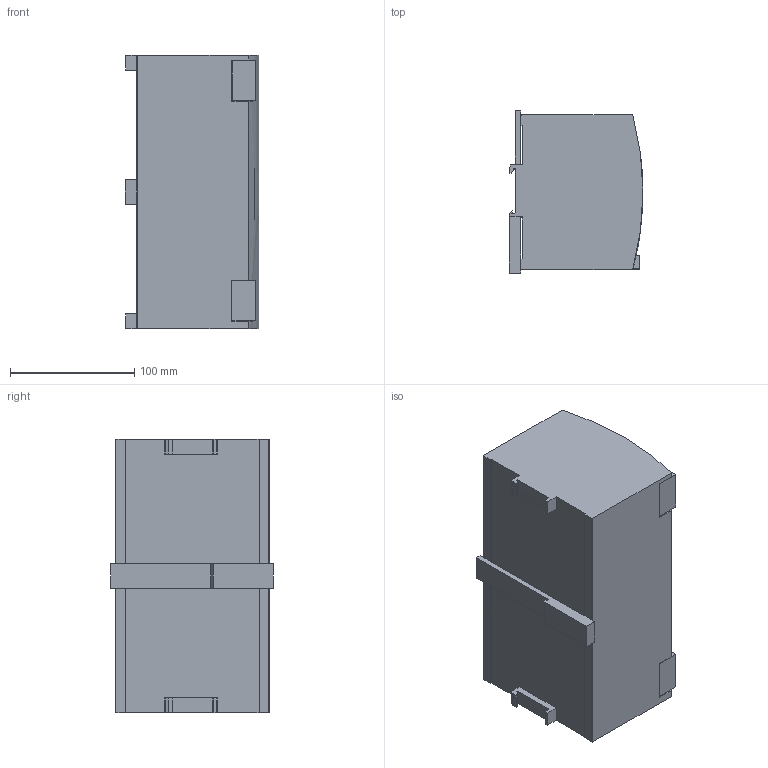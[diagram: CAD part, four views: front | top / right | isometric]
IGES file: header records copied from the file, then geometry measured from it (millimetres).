
Start section: SolidWorks IGES FILE using analytic representation for surfaces
Global section: file name: C:\Vertrieb\SL20_301\SL20_301.IGS; native system: SolidWorks 2004 by SolidWorks Corporation; preprocessor: Version 5.3; author: heinrij; date: 040216.160802; units: millimetre
Bounding box: 107.63 x 130.5 x 220 mm (x, y, z)
Surface area: 132021.7 mm2 (no closed solid volume)
Topology: 0 solids, 0 shells, 724 faces, 6726 edges, 6726 vertices
Faces by surface type: bspline 682, revolution 42
